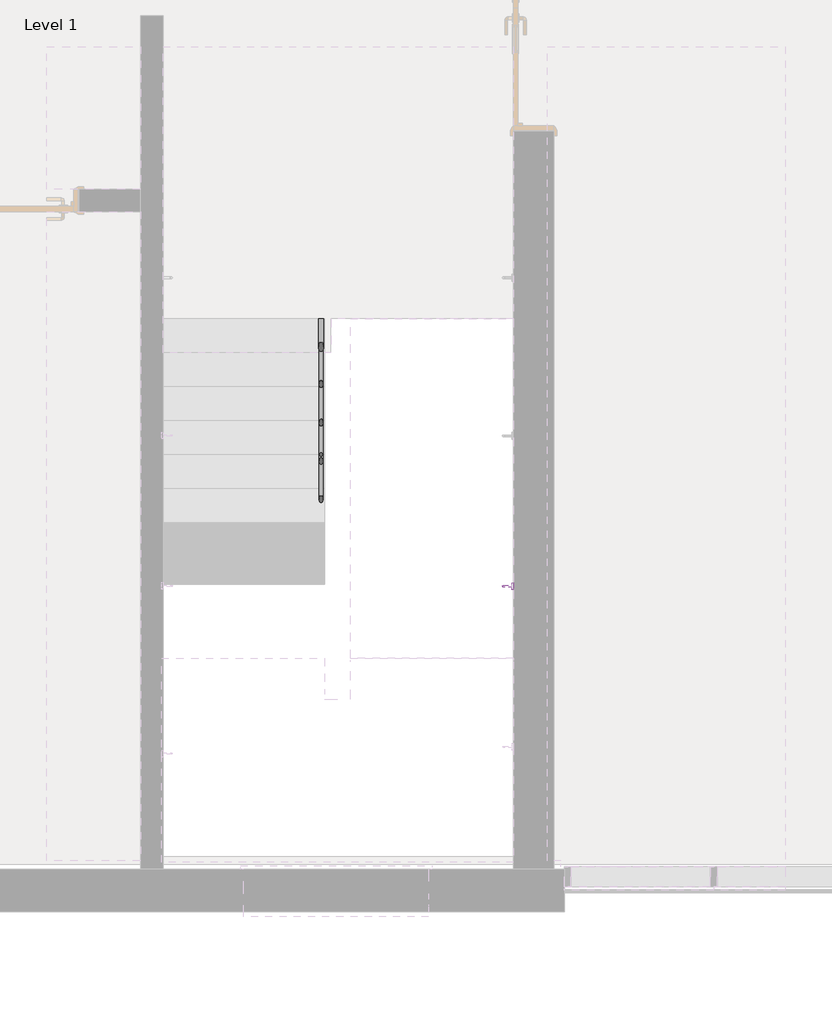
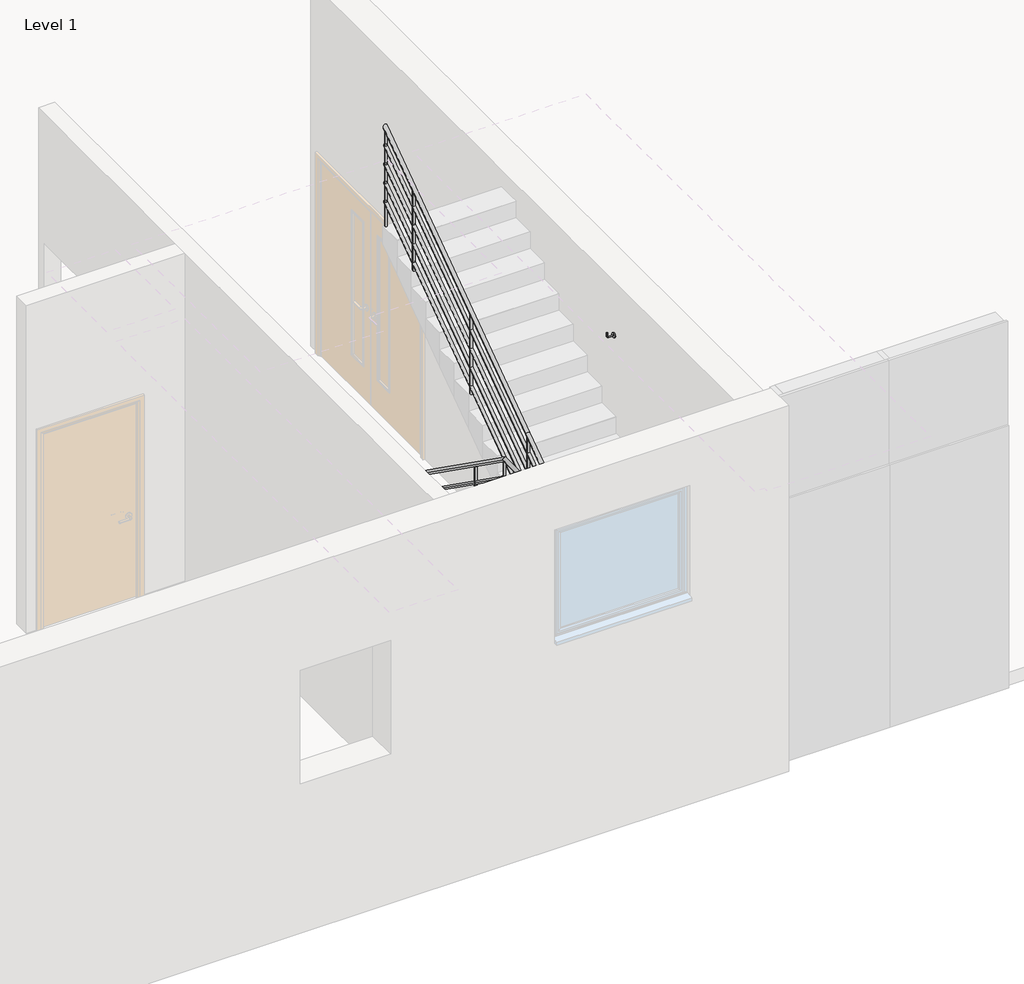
# One storey, part 9 of 12: 1 proxy, 1 railing.
"""IFC4 building model written with IfcOpenShell, lengths in millimetres."""

from ifc_helpers import new_model, si_unit, point, frame, frame_2d, origin, place, context, project, spatial, circle_curve, ellipse_curve, trimmed, segment, composite_curve, outline, extrude, transform, mapped, element, save
from ifc_brep_helpers import plane_surface, cylinder_surface, advanced_brep
from components import support_metal_circular1_support_metal_circular_016e83f0

model = new_model("IFC4")

# Units and contexts
model_context = context("Model", 3, world=origin())
ifc_project = project(units=[si_unit("LENGTHUNIT", "METRE", prefix="MILLI")], contexts=[model_context])

# Site, building, storey
site = spatial("IfcSite", under=ifc_project)
building = spatial("IfcBuilding", under=site)
storey = spatial("IfcBuildingStorey", under=building, Name="Level 1", Elevation=3900.0)

# Proxy
placement = place(None, origin())
support_metal_circular1_support_metal_circular_shape = support_metal_circular1_support_metal_circular_016e83f0(model_context)
element("IfcBuildingElementProxy", 1, Name="Support - Metal - Circular1 : Support - Metal - Circular", ObjectType="Support - Metal - Circular1 : Support - Metal - Circular", at=placement, inside=storey, context=model_context, shape_type="MappedRepresentation", body=[
    mapped(support_metal_circular1_support_metal_circular_shape, transform((7761.8000024, 2330.7111848, 7285.714432), x_axis=(0.0, -1.0, 0.0), y_axis=(1.0, 0.0, 0.0), z_axis=(0.0, 0.0, 1.0))),
])

# Railing
element("IfcRailing", 2, ObjectType="36\"_Pipe", at=placement, inside=storey, context=model_context, shape_type="SolidModel", body=[
    advanced_brep(
    [(6401.8000025, 4300.0, 4952.7548977), (6441.8000025, 4300.0, 4952.7548977), (6401.8000025, 1793.6287019, 6730.0), (6441.8000025, 1793.6287019, 6730.0), (6401.8000025, 1454.6, 6730.0), (6441.8000025, 1494.6, 6730.0), (6682.6000026, 1454.6, 6730.0), (6642.6000026, 1494.6, 6730.0), (6682.6000026, 1556.3712981, 6730.0), (6642.6000026, 1556.3712981, 6730.0), (6682.6000026, 1811.5685755, 6910.9580695), (6642.6000026, 1811.5685755, 6910.9580695), (6682.6000026, 4300.0, 8675.4821704), (6642.6000026, 4300.0, 8675.4821704)],
    [
        (0, 1, ellipse_curve(frame((6421.8000025, 4300.0, 4952.7548977), z_axis=(0.0, 1.0, 0.0), x_axis=(0.0, 0.0, -1.0)), 24.5178296, 20.0)),
        (1, 0, ellipse_curve(frame((6421.8000025, 4300.0, 4952.7548977), z_axis=(0.0, 1.0, 0.0), x_axis=(0.0, 0.0, -1.0)), 24.5178296, 20.0)),
        (0, 2),
        (2, 3, ellipse_curve(frame((6421.8000025, 1793.6287019, 6730.0), z_axis=(0.0, 0.9528202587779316, -0.30353509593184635), x_axis=(0.0, -0.30353509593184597, -0.9528202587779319)), 20.9903178, 20.0)),
        (3, 1),
        (3, 2, ellipse_curve(frame((6421.8000025, 1793.6287019, 6730.0), z_axis=(0.0, 0.9528202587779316, -0.30353509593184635), x_axis=(0.0, -0.30353509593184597, -0.9528202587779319)), 20.9903178, 20.0)),
        (2, 4),
        (4, 5, ellipse_curve(frame((6421.8000025, 1474.6, 6730.0), z_axis=(-0.7071067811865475, 0.7071067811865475, 0.0), x_axis=(0.7071067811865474, 0.7071067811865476, 0.0)), 28.2842712, 20.0)),
        (5, 3),
        (5, 4, ellipse_curve(frame((6421.8000025, 1474.6, 6730.0), z_axis=(-0.7071067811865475, 0.7071067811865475, 0.0), x_axis=(0.7071067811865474, 0.7071067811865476, 0.0)), 28.2842712, 20.0)),
        (4, 6),
        (6, 7, ellipse_curve(frame((6662.6000026, 1474.6, 6730.0), z_axis=(-0.7071067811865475, -0.7071067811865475, 0.0), x_axis=(-0.7071067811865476, 0.7071067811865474, 0.0)), 28.2842712, 20.0)),
        (7, 5),
        (7, 6, ellipse_curve(frame((6662.6000026, 1474.6, 6730.0), z_axis=(-0.7071067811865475, -0.7071067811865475, 0.0), x_axis=(-0.7071067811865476, 0.7071067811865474, 0.0)), 28.2842712, 20.0)),
        (6, 8),
        (8, 9, ellipse_curve(frame((6662.6000026, 1556.3712981, 6730.0), z_axis=(0.0, -0.9528202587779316, -0.3035350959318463), x_axis=(0.0, -0.3035350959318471, 0.9528202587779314)), 20.9903178, 20.0)),
        (9, 7),
        (9, 8, ellipse_curve(frame((6662.6000026, 1556.3712981, 6730.0), z_axis=(0.0, -0.9528202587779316, -0.3035350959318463), x_axis=(0.0, -0.3035350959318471, 0.9528202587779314)), 20.9903178, 20.0)),
        (8, 10),
        (10, 11, circle_curve(frame((6662.6000026, 1811.5685755, 6910.9580695), z_axis=(0.0, -0.8157328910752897, -0.5784287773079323), x_axis=(-1.0, 0.0, 0.0)), 20.0)),
        (11, 9),
        (11, 10, circle_curve(frame((6662.6000026, 1811.5685755, 6910.9580695), z_axis=(0.0, -0.8157328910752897, -0.5784287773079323), x_axis=(-1.0, 0.0, 0.0)), 20.0)),
        (12, 13, ellipse_curve(frame((6662.6000026, 4300.0, 8675.4821704), z_axis=(0.0, 1.0, 0.0), x_axis=(0.0, 0.0, -1.0)), 24.5178296, 20.0)),
        (13, 12, ellipse_curve(frame((6662.6000026, 4300.0, 8675.4821704), z_axis=(0.0, 1.0, 0.0), x_axis=(0.0, 0.0, -1.0)), 24.5178296, 20.0)),
        (10, 12),
        (13, 11),
    ],
    [
        plane_surface(frame((6421.8000025, 4300.0, 4977.2727273), z_axis=(0.0, 1.0, 0.0), x_axis=(0.0, 0.0, -1.0))),
        cylinder_surface(frame((6421.8000025, 4288.4314245, 4960.9580695), z_axis=(0.0, 0.8157328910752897, -0.5784287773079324), x_axis=(1.0, 0.0, 0.0)), 20.0),
        cylinder_surface(frame((6421.8000025, 1800.0, 6730.0), z_axis=(0.0, 1.0, 0.0), x_axis=(1.0, 0.0, 0.0)), 20.0),
        cylinder_surface(frame((6421.8000025, 1474.6, 6730.0), z_axis=(-1.0, 0.0, 0.0), x_axis=(0.0, 1.0, 0.0)), 20.0),
        cylinder_surface(frame((6662.6000026, 1474.6, 6730.0), z_axis=(0.0, -1.0, 0.0), x_axis=(-1.0, 0.0, 0.0)), 20.0),
        cylinder_surface(frame((6662.6000026, 1561.5685755, 6733.6853422), z_axis=(0.0, -0.8157328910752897, -0.5784287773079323), x_axis=(-1.0, 0.0, 0.0)), 20.0),
        plane_surface(frame((6662.6000026, 4300.0, 8700.0), z_axis=(0.0, 1.0, 0.0), x_axis=(0.0, 0.0, 1.0))),
        cylinder_surface(frame((6662.6000026, 1811.5685755, 6910.9580695), z_axis=(0.0, -0.8157328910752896, -0.5784287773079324), x_axis=(-1.0, 0.0, 0.0)), 20.0),
    ],
    [
        (0, [[1, 2]]),
        (1, [[-1, 3, 4, 5]]),
        (1, [[-2, -5, 6, -3]]),
        (2, [[-4, 7, 8, 9]]),
        (2, [[-6, -9, 10, -7]]),
        (3, [[-8, 11, 12, 13]]),
        (3, [[-10, -13, 14, -11]]),
        (4, [[-12, 15, 16, 17]]),
        (4, [[-14, -17, 18, -15]]),
        (5, [[-16, 19, 20, 21]]),
        (5, [[-18, -21, 22, -19]]),
        (6, [[23, 24]]),
        (7, [[-20, 25, -24, 26]]),
        (7, [[-22, -26, -23, -25]]),
    ],
),
    advanced_brep(
    [(6406.8000025, 4300.0, 4758.8843551), (6436.8000025, 4300.0, 4758.8843551), (6406.8000025, 1800.0, 6531.6116278), (6436.8000025, 1800.0, 6531.6116278)],
    [
        (0, 1, ellipse_curve(frame((6421.8000025, 4300.0, 4758.8843551), z_axis=(0.0, 1.0, 0.0), x_axis=(0.0, 0.0, -1.0)), 18.3883722, 15.0)),
        (1, 0, ellipse_curve(frame((6421.8000025, 4300.0, 4758.8843551), z_axis=(0.0, 1.0, 0.0), x_axis=(0.0, 0.0, -1.0)), 18.3883722, 15.0)),
        (2, 3, ellipse_curve(frame((6421.8000025, 1800.0, 6531.6116278), z_axis=(0.0, -1.0, 0.0), x_axis=(0.0, 0.0, -1.0)), 18.3883722, 15.0)),
        (3, 2, ellipse_curve(frame((6421.8000025, 1800.0, 6531.6116278), z_axis=(0.0, -1.0, 0.0), x_axis=(0.0, 0.0, -1.0)), 18.3883722, 15.0)),
        (0, 2),
        (3, 1),
    ],
    [
        plane_surface(frame((6421.8000025, 4300.0, 4777.2727273), z_axis=(0.0, 1.0, 0.0), x_axis=(0.0, 0.0, -1.0))),
        plane_surface(frame((6421.8000025, 1800.0, 6550.0), z_axis=(0.0, -1.0, 0.0), x_axis=(0.0, 0.0, -1.0))),
        cylinder_surface(frame((6421.8000025, 4291.3235683, 4765.0367339), z_axis=(0.0, 0.8157328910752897, -0.5784287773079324), x_axis=(1.0, 0.0, 0.0)), 15.0),
    ],
    [
        (0, [[1, 2]]),
        (1, [[3, 4]]),
        (2, [[-1, 5, -4, 6]]),
        (2, [[-2, -6, -3, -5]]),
    ],
),
    advanced_brep(
    [(6406.8000025, 1800.0, 6535.0), (6436.8000025, 1800.0, 6535.0), (6406.8000025, 1489.6, 6535.0), (6436.8000025, 1489.6, 6535.0)],
    [
        (0, 1, circle_curve(frame((6421.8000025, 1800.0, 6535.0), z_axis=(0.0, 1.0, 0.0), x_axis=(1.0, 0.0, 0.0)), 15.0)),
        (1, 0, circle_curve(frame((6421.8000025, 1800.0, 6535.0), z_axis=(0.0, 1.0, 0.0), x_axis=(1.0, 0.0, 0.0)), 15.0)),
        (2, 3, circle_curve(frame((6421.8000025, 1489.6, 6535.0), z_axis=(0.0, -1.0, 0.0), x_axis=(1.0, 0.0, 0.0)), 15.0)),
        (3, 2, circle_curve(frame((6421.8000025, 1489.6, 6535.0), z_axis=(0.0, -1.0, 0.0), x_axis=(1.0, 0.0, 0.0)), 15.0)),
        (0, 2),
        (3, 1),
    ],
    [
        plane_surface(frame((6421.8000025, 1800.0, 6550.0), z_axis=(0.0, 1.0, 0.0), x_axis=(0.0, 0.0, -1.0))),
        plane_surface(frame((6421.8000025, 1489.6, 6550.0), z_axis=(0.0, -1.0, 0.0), x_axis=(0.0, 0.0, -1.0))),
        cylinder_surface(frame((6421.8000025, 1800.0, 6535.0), z_axis=(0.0, 1.0, 0.0), x_axis=(1.0, 0.0, 0.0)), 15.0),
    ],
    [
        (0, [[1, 2]]),
        (1, [[3, 4]]),
        (2, [[-1, 5, -4, 6]]),
        (2, [[-2, -6, -3, -5]]),
    ],
),
    advanced_brep(
    [(6406.8000025, 1459.6, 6535.0), (6406.8000025, 1489.6, 6535.0), (6647.6000026, 1459.6, 6535.0), (6647.6000026, 1489.6, 6535.0)],
    [
        (0, 1, circle_curve(frame((6406.8000025, 1474.6, 6535.0), z_axis=(-1.0, 0.0, 0.0), x_axis=(0.0, 1.0, 0.0)), 15.0)),
        (1, 0, circle_curve(frame((6406.8000025, 1474.6, 6535.0), z_axis=(-1.0, 0.0, 0.0), x_axis=(0.0, 1.0, 0.0)), 15.0)),
        (2, 3, circle_curve(frame((6647.6000026, 1474.6, 6535.0), z_axis=(1.0, 0.0, 0.0), x_axis=(0.0, 1.0, 0.0)), 15.0)),
        (3, 2, circle_curve(frame((6647.6000026, 1474.6, 6535.0), z_axis=(1.0, 0.0, 0.0), x_axis=(0.0, 1.0, 0.0)), 15.0)),
        (0, 2),
        (3, 1),
    ],
    [
        plane_surface(frame((6406.8000025, 1474.6, 6550.0), z_axis=(-1.0, 0.0, 0.0), x_axis=(0.0, 1.0, 0.0))),
        plane_surface(frame((6647.6000026, 1474.6, 6550.0), z_axis=(1.0, 0.0, 0.0), x_axis=(0.0, 1.0, 0.0))),
        cylinder_surface(frame((6406.8000025, 1474.6, 6535.0), z_axis=(-1.0, 0.0, 0.0), x_axis=(0.0, 1.0, 0.0)), 15.0),
    ],
    [
        (0, [[1, 2]]),
        (1, [[3, 4]]),
        (2, [[-1, 5, -4, 6]]),
        (2, [[-2, -6, -3, -5]]),
    ],
),
    advanced_brep(
    [(6677.6000026, 1459.6, 6535.0), (6647.6000026, 1459.6, 6535.0), (6677.6000026, 1554.7784736, 6535.0), (6647.6000026, 1554.7784736, 6535.0), (6677.6000026, 1800.0, 6708.8843551), (6647.6000026, 1800.0, 6708.8843551)],
    [
        (0, 1, circle_curve(frame((6662.6000026, 1459.6, 6535.0), z_axis=(0.0, -1.0, 0.0), x_axis=(-1.0, 0.0, 0.0)), 15.0)),
        (1, 0, circle_curve(frame((6662.6000026, 1459.6, 6535.0), z_axis=(0.0, -1.0, 0.0), x_axis=(-1.0, 0.0, 0.0)), 15.0)),
        (0, 2),
        (2, 3, ellipse_curve(frame((6662.6000026, 1554.7784736, 6535.0), z_axis=(0.0, -0.9528202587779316, -0.3035350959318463), x_axis=(0.0, -0.3035350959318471, 0.9528202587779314)), 15.7427383, 15.0)),
        (3, 1),
        (3, 2, ellipse_curve(frame((6662.6000026, 1554.7784736, 6535.0), z_axis=(0.0, -0.9528202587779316, -0.3035350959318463), x_axis=(0.0, -0.3035350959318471, 0.9528202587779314)), 15.7427383, 15.0)),
        (4, 5, ellipse_curve(frame((6662.6000026, 1800.0, 6708.8843551), z_axis=(0.0, 1.0, 0.0), x_axis=(0.0, 0.0, -1.0)), 18.3883722, 15.0)),
        (5, 4, ellipse_curve(frame((6662.6000026, 1800.0, 6708.8843551), z_axis=(0.0, 1.0, 0.0), x_axis=(0.0, 0.0, -1.0)), 18.3883722, 15.0)),
        (2, 4),
        (5, 3),
    ],
    [
        plane_surface(frame((6662.6000026, 1459.6, 6550.0), z_axis=(0.0, -1.0, 0.0), x_axis=(0.0, 0.0, 1.0))),
        cylinder_surface(frame((6662.6000026, 1459.6, 6535.0), z_axis=(0.0, -1.0, 0.0), x_axis=(-1.0, 0.0, 0.0)), 15.0),
        plane_surface(frame((6662.6000026, 1800.0, 6727.2727273), z_axis=(0.0, 1.0, 0.0), x_axis=(0.0, 0.0, 1.0))),
        cylinder_surface(frame((6662.6000026, 1558.6764317, 6537.7640066), z_axis=(0.0, -0.8157328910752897, -0.5784287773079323), x_axis=(-1.0, 0.0, 0.0)), 15.0),
    ],
    [
        (0, [[1, 2]]),
        (1, [[-1, 3, 4, 5]]),
        (1, [[-2, -5, 6, -3]]),
        (2, [[7, 8]]),
        (3, [[-4, 9, -8, 10]]),
        (3, [[-6, -10, -7, -9]]),
    ],
),
    advanced_brep(
    [(6677.6000026, 1800.0, 6708.8843551), (6647.6000026, 1800.0, 6708.8843551), (6677.6000026, 4300.0, 8481.6116278), (6647.6000026, 4300.0, 8481.6116278)],
    [
        (0, 1, ellipse_curve(frame((6662.6000026, 1800.0, 6708.8843551), z_axis=(0.0, -1.0, 0.0), x_axis=(0.0, 0.0, -1.0)), 18.3883722, 15.0)),
        (1, 0, ellipse_curve(frame((6662.6000026, 1800.0, 6708.8843551), z_axis=(0.0, -1.0, 0.0), x_axis=(0.0, 0.0, -1.0)), 18.3883722, 15.0)),
        (2, 3, ellipse_curve(frame((6662.6000026, 4300.0, 8481.6116278), z_axis=(0.0, 1.0, 0.0), x_axis=(0.0, 0.0, -1.0)), 18.3883722, 15.0)),
        (3, 2, ellipse_curve(frame((6662.6000026, 4300.0, 8481.6116278), z_axis=(0.0, 1.0, 0.0), x_axis=(0.0, 0.0, -1.0)), 18.3883722, 15.0)),
        (0, 2),
        (3, 1),
    ],
    [
        plane_surface(frame((6662.6000026, 1800.0, 6727.2727273), z_axis=(0.0, -1.0, 0.0), x_axis=(0.0, 0.0, 1.0))),
        plane_surface(frame((6662.6000026, 4300.0, 8500.0), z_axis=(0.0, 1.0, 0.0), x_axis=(0.0, 0.0, 1.0))),
        cylinder_surface(frame((6662.6000026, 1808.6764317, 6715.0367339), z_axis=(0.0, -0.8157328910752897, -0.5784287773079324), x_axis=(-1.0, 0.0, 0.0)), 15.0),
    ],
    [
        (0, [[1, 2]]),
        (1, [[3, 4]]),
        (2, [[-1, 5, -4, 6]]),
        (2, [[-2, -6, -3, -5]]),
    ],
),
    advanced_brep(
    [(6406.8000025, 4300.0, 4558.8843551), (6436.8000025, 4300.0, 4558.8843551), (6406.8000025, 1800.0, 6331.6116278), (6436.8000025, 1800.0, 6331.6116278)],
    [
        (0, 1, ellipse_curve(frame((6421.8000025, 4300.0, 4558.8843551), z_axis=(0.0, 1.0, 0.0), x_axis=(0.0, 0.0, -1.0)), 18.3883722, 15.0)),
        (1, 0, ellipse_curve(frame((6421.8000025, 4300.0, 4558.8843551), z_axis=(0.0, 1.0, 0.0), x_axis=(0.0, 0.0, -1.0)), 18.3883722, 15.0)),
        (2, 3, ellipse_curve(frame((6421.8000025, 1800.0, 6331.6116278), z_axis=(0.0, -1.0, 0.0), x_axis=(0.0, 0.0, -1.0)), 18.3883722, 15.0)),
        (3, 2, ellipse_curve(frame((6421.8000025, 1800.0, 6331.6116278), z_axis=(0.0, -1.0, 0.0), x_axis=(0.0, 0.0, -1.0)), 18.3883722, 15.0)),
        (0, 2),
        (3, 1),
    ],
    [
        plane_surface(frame((6421.8000025, 4300.0, 4577.2727273), z_axis=(0.0, 1.0, 0.0), x_axis=(0.0, 0.0, -1.0))),
        plane_surface(frame((6421.8000025, 1800.0, 6350.0), z_axis=(0.0, -1.0, 0.0), x_axis=(0.0, 0.0, -1.0))),
        cylinder_surface(frame((6421.8000025, 4291.3235683, 4565.0367339), z_axis=(0.0, 0.8157328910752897, -0.5784287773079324), x_axis=(1.0, 0.0, 0.0)), 15.0),
    ],
    [
        (0, [[1, 2]]),
        (1, [[3, 4]]),
        (2, [[-1, 5, -4, 6]]),
        (2, [[-2, -6, -3, -5]]),
    ],
),
    advanced_brep(
    [(6406.8000025, 1800.0, 6335.0), (6436.8000025, 1800.0, 6335.0), (6406.8000025, 1489.6, 6335.0), (6436.8000025, 1489.6, 6335.0)],
    [
        (0, 1, circle_curve(frame((6421.8000025, 1800.0, 6335.0), z_axis=(0.0, 1.0, 0.0), x_axis=(1.0, 0.0, 0.0)), 15.0)),
        (1, 0, circle_curve(frame((6421.8000025, 1800.0, 6335.0), z_axis=(0.0, 1.0, 0.0), x_axis=(1.0, 0.0, 0.0)), 15.0)),
        (2, 3, circle_curve(frame((6421.8000025, 1489.6, 6335.0), z_axis=(0.0, -1.0, 0.0), x_axis=(1.0, 0.0, 0.0)), 15.0)),
        (3, 2, circle_curve(frame((6421.8000025, 1489.6, 6335.0), z_axis=(0.0, -1.0, 0.0), x_axis=(1.0, 0.0, 0.0)), 15.0)),
        (0, 2),
        (3, 1),
    ],
    [
        plane_surface(frame((6421.8000025, 1800.0, 6350.0), z_axis=(0.0, 1.0, 0.0), x_axis=(0.0, 0.0, -1.0))),
        plane_surface(frame((6421.8000025, 1489.6, 6350.0), z_axis=(0.0, -1.0, 0.0), x_axis=(0.0, 0.0, -1.0))),
        cylinder_surface(frame((6421.8000025, 1800.0, 6335.0), z_axis=(0.0, 1.0, 0.0), x_axis=(1.0, 0.0, 0.0)), 15.0),
    ],
    [
        (0, [[1, 2]]),
        (1, [[3, 4]]),
        (2, [[-1, 5, -4, 6]]),
        (2, [[-2, -6, -3, -5]]),
    ],
),
    advanced_brep(
    [(6406.8000025, 1459.6, 6335.0), (6406.8000025, 1489.6, 6335.0), (6647.6000026, 1459.6, 6335.0), (6647.6000026, 1489.6, 6335.0)],
    [
        (0, 1, circle_curve(frame((6406.8000025, 1474.6, 6335.0), z_axis=(-1.0, 0.0, 0.0), x_axis=(0.0, 1.0, 0.0)), 15.0)),
        (1, 0, circle_curve(frame((6406.8000025, 1474.6, 6335.0), z_axis=(-1.0, 0.0, 0.0), x_axis=(0.0, 1.0, 0.0)), 15.0)),
        (2, 3, circle_curve(frame((6647.6000026, 1474.6, 6335.0), z_axis=(1.0, 0.0, 0.0), x_axis=(0.0, 1.0, 0.0)), 15.0)),
        (3, 2, circle_curve(frame((6647.6000026, 1474.6, 6335.0), z_axis=(1.0, 0.0, 0.0), x_axis=(0.0, 1.0, 0.0)), 15.0)),
        (0, 2),
        (3, 1),
    ],
    [
        plane_surface(frame((6406.8000025, 1474.6, 6350.0), z_axis=(-1.0, 0.0, 0.0), x_axis=(0.0, 1.0, 0.0))),
        plane_surface(frame((6647.6000026, 1474.6, 6350.0), z_axis=(1.0, 0.0, 0.0), x_axis=(0.0, 1.0, 0.0))),
        cylinder_surface(frame((6406.8000025, 1474.6, 6335.0), z_axis=(-1.0, 0.0, 0.0), x_axis=(0.0, 1.0, 0.0)), 15.0),
    ],
    [
        (0, [[1, 2]]),
        (1, [[3, 4]]),
        (2, [[-1, 5, -4, 6]]),
        (2, [[-2, -6, -3, -5]]),
    ],
),
    advanced_brep(
    [(6677.6000026, 1459.6, 6335.0), (6647.6000026, 1459.6, 6335.0), (6677.6000026, 1554.7784736, 6335.0), (6647.6000026, 1554.7784736, 6335.0), (6677.6000026, 1800.0, 6508.8843551), (6647.6000026, 1800.0, 6508.8843551)],
    [
        (0, 1, circle_curve(frame((6662.6000026, 1459.6, 6335.0), z_axis=(0.0, -1.0, 0.0), x_axis=(-1.0, 0.0, 0.0)), 15.0)),
        (1, 0, circle_curve(frame((6662.6000026, 1459.6, 6335.0), z_axis=(0.0, -1.0, 0.0), x_axis=(-1.0, 0.0, 0.0)), 15.0)),
        (0, 2),
        (2, 3, ellipse_curve(frame((6662.6000026, 1554.7784736, 6335.0), z_axis=(0.0, -0.9528202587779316, -0.3035350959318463), x_axis=(0.0, -0.3035350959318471, 0.9528202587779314)), 15.7427383, 15.0)),
        (3, 1),
        (3, 2, ellipse_curve(frame((6662.6000026, 1554.7784736, 6335.0), z_axis=(0.0, -0.9528202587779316, -0.3035350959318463), x_axis=(0.0, -0.3035350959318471, 0.9528202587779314)), 15.7427383, 15.0)),
        (4, 5, ellipse_curve(frame((6662.6000026, 1800.0, 6508.8843551), z_axis=(0.0, 1.0, 0.0), x_axis=(0.0, 0.0, -1.0)), 18.3883722, 15.0)),
        (5, 4, ellipse_curve(frame((6662.6000026, 1800.0, 6508.8843551), z_axis=(0.0, 1.0, 0.0), x_axis=(0.0, 0.0, -1.0)), 18.3883722, 15.0)),
        (2, 4),
        (5, 3),
    ],
    [
        plane_surface(frame((6662.6000026, 1459.6, 6350.0), z_axis=(0.0, -1.0, 0.0), x_axis=(0.0, 0.0, 1.0))),
        cylinder_surface(frame((6662.6000026, 1459.6, 6335.0), z_axis=(0.0, -1.0, 0.0), x_axis=(-1.0, 0.0, 0.0)), 15.0),
        plane_surface(frame((6662.6000026, 1800.0, 6527.2727273), z_axis=(0.0, 1.0, 0.0), x_axis=(0.0, 0.0, 1.0))),
        cylinder_surface(frame((6662.6000026, 1558.6764317, 6337.7640066), z_axis=(0.0, -0.8157328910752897, -0.5784287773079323), x_axis=(-1.0, 0.0, 0.0)), 15.0),
    ],
    [
        (0, [[1, 2]]),
        (1, [[-1, 3, 4, 5]]),
        (1, [[-2, -5, 6, -3]]),
        (2, [[7, 8]]),
        (3, [[-4, 9, -8, 10]]),
        (3, [[-6, -10, -7, -9]]),
    ],
),
    advanced_brep(
    [(6677.6000026, 1800.0, 6508.8843551), (6647.6000026, 1800.0, 6508.8843551), (6677.6000026, 4300.0, 8281.6116278), (6647.6000026, 4300.0, 8281.6116278)],
    [
        (0, 1, ellipse_curve(frame((6662.6000026, 1800.0, 6508.8843551), z_axis=(0.0, -1.0, 0.0), x_axis=(0.0, 0.0, -1.0)), 18.3883722, 15.0)),
        (1, 0, ellipse_curve(frame((6662.6000026, 1800.0, 6508.8843551), z_axis=(0.0, -1.0, 0.0), x_axis=(0.0, 0.0, -1.0)), 18.3883722, 15.0)),
        (2, 3, ellipse_curve(frame((6662.6000026, 4300.0, 8281.6116278), z_axis=(0.0, 1.0, 0.0), x_axis=(0.0, 0.0, -1.0)), 18.3883722, 15.0)),
        (3, 2, ellipse_curve(frame((6662.6000026, 4300.0, 8281.6116278), z_axis=(0.0, 1.0, 0.0), x_axis=(0.0, 0.0, -1.0)), 18.3883722, 15.0)),
        (0, 2),
        (3, 1),
    ],
    [
        plane_surface(frame((6662.6000026, 1800.0, 6527.2727273), z_axis=(0.0, -1.0, 0.0), x_axis=(0.0, 0.0, 1.0))),
        plane_surface(frame((6662.6000026, 4300.0, 8300.0), z_axis=(0.0, 1.0, 0.0), x_axis=(0.0, 0.0, 1.0))),
        cylinder_surface(frame((6662.6000026, 1808.6764317, 6515.0367339), z_axis=(0.0, -0.8157328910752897, -0.5784287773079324), x_axis=(-1.0, 0.0, 0.0)), 15.0),
    ],
    [
        (0, [[1, 2]]),
        (1, [[3, 4]]),
        (2, [[-1, 5, -4, 6]]),
        (2, [[-2, -6, -3, -5]]),
    ],
),
    advanced_brep(
    [(6406.8000025, 4300.0, 4358.8843551), (6436.8000025, 4300.0, 4358.8843551), (6406.8000025, 1800.0, 6131.6116278), (6436.8000025, 1800.0, 6131.6116278)],
    [
        (0, 1, ellipse_curve(frame((6421.8000025, 4300.0, 4358.8843551), z_axis=(0.0, 1.0, 0.0), x_axis=(0.0, 0.0, -1.0)), 18.3883722, 15.0)),
        (1, 0, ellipse_curve(frame((6421.8000025, 4300.0, 4358.8843551), z_axis=(0.0, 1.0, 0.0), x_axis=(0.0, 0.0, -1.0)), 18.3883722, 15.0)),
        (2, 3, ellipse_curve(frame((6421.8000025, 1800.0, 6131.6116278), z_axis=(0.0, -1.0, 0.0), x_axis=(0.0, 0.0, -1.0)), 18.3883722, 15.0)),
        (3, 2, ellipse_curve(frame((6421.8000025, 1800.0, 6131.6116278), z_axis=(0.0, -1.0, 0.0), x_axis=(0.0, 0.0, -1.0)), 18.3883722, 15.0)),
        (0, 2),
        (3, 1),
    ],
    [
        plane_surface(frame((6421.8000025, 4300.0, 4377.2727273), z_axis=(0.0, 1.0, 0.0), x_axis=(0.0, 0.0, -1.0))),
        plane_surface(frame((6421.8000025, 1800.0, 6150.0), z_axis=(0.0, -1.0, 0.0), x_axis=(0.0, 0.0, -1.0))),
        cylinder_surface(frame((6421.8000025, 4291.3235683, 4365.0367339), z_axis=(0.0, 0.8157328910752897, -0.5784287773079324), x_axis=(1.0, 0.0, 0.0)), 15.0),
    ],
    [
        (0, [[1, 2]]),
        (1, [[3, 4]]),
        (2, [[-1, 5, -4, 6]]),
        (2, [[-2, -6, -3, -5]]),
    ],
),
    advanced_brep(
    [(6406.8000025, 1800.0, 6135.0), (6436.8000025, 1800.0, 6135.0), (6406.8000025, 1489.6, 6135.0), (6436.8000025, 1489.6, 6135.0)],
    [
        (0, 1, circle_curve(frame((6421.8000025, 1800.0, 6135.0), z_axis=(0.0, 1.0, 0.0), x_axis=(1.0, 0.0, 0.0)), 15.0)),
        (1, 0, circle_curve(frame((6421.8000025, 1800.0, 6135.0), z_axis=(0.0, 1.0, 0.0), x_axis=(1.0, 0.0, 0.0)), 15.0)),
        (2, 3, circle_curve(frame((6421.8000025, 1489.6, 6135.0), z_axis=(0.0, -1.0, 0.0), x_axis=(1.0, 0.0, 0.0)), 15.0)),
        (3, 2, circle_curve(frame((6421.8000025, 1489.6, 6135.0), z_axis=(0.0, -1.0, 0.0), x_axis=(1.0, 0.0, 0.0)), 15.0)),
        (0, 2),
        (3, 1),
    ],
    [
        plane_surface(frame((6421.8000025, 1800.0, 6150.0), z_axis=(0.0, 1.0, 0.0), x_axis=(0.0, 0.0, -1.0))),
        plane_surface(frame((6421.8000025, 1489.6, 6150.0), z_axis=(0.0, -1.0, 0.0), x_axis=(0.0, 0.0, -1.0))),
        cylinder_surface(frame((6421.8000025, 1800.0, 6135.0), z_axis=(0.0, 1.0, 0.0), x_axis=(1.0, 0.0, 0.0)), 15.0),
    ],
    [
        (0, [[1, 2]]),
        (1, [[3, 4]]),
        (2, [[-1, 5, -4, 6]]),
        (2, [[-2, -6, -3, -5]]),
    ],
),
    advanced_brep(
    [(6406.8000025, 1459.6, 6135.0), (6406.8000025, 1489.6, 6135.0), (6647.6000026, 1459.6, 6135.0), (6647.6000026, 1489.6, 6135.0)],
    [
        (0, 1, circle_curve(frame((6406.8000025, 1474.6, 6135.0), z_axis=(-1.0, 0.0, 0.0), x_axis=(0.0, 1.0, 0.0)), 15.0)),
        (1, 0, circle_curve(frame((6406.8000025, 1474.6, 6135.0), z_axis=(-1.0, 0.0, 0.0), x_axis=(0.0, 1.0, 0.0)), 15.0)),
        (2, 3, circle_curve(frame((6647.6000026, 1474.6, 6135.0), z_axis=(1.0, 0.0, 0.0), x_axis=(0.0, 1.0, 0.0)), 15.0)),
        (3, 2, circle_curve(frame((6647.6000026, 1474.6, 6135.0), z_axis=(1.0, 0.0, 0.0), x_axis=(0.0, 1.0, 0.0)), 15.0)),
        (0, 2),
        (3, 1),
    ],
    [
        plane_surface(frame((6406.8000025, 1474.6, 6150.0), z_axis=(-1.0, 0.0, 0.0), x_axis=(0.0, 1.0, 0.0))),
        plane_surface(frame((6647.6000026, 1474.6, 6150.0), z_axis=(1.0, 0.0, 0.0), x_axis=(0.0, 1.0, 0.0))),
        cylinder_surface(frame((6406.8000025, 1474.6, 6135.0), z_axis=(-1.0, 0.0, 0.0), x_axis=(0.0, 1.0, 0.0)), 15.0),
    ],
    [
        (0, [[1, 2]]),
        (1, [[3, 4]]),
        (2, [[-1, 5, -4, 6]]),
        (2, [[-2, -6, -3, -5]]),
    ],
),
    advanced_brep(
    [(6677.6000026, 1459.6, 6135.0), (6647.6000026, 1459.6, 6135.0), (6677.6000026, 1554.7784736, 6135.0), (6647.6000026, 1554.7784736, 6135.0), (6677.6000026, 1800.0, 6308.8843551), (6647.6000026, 1800.0, 6308.8843551)],
    [
        (0, 1, circle_curve(frame((6662.6000026, 1459.6, 6135.0), z_axis=(0.0, -1.0, 0.0), x_axis=(-1.0, 0.0, 0.0)), 15.0)),
        (1, 0, circle_curve(frame((6662.6000026, 1459.6, 6135.0), z_axis=(0.0, -1.0, 0.0), x_axis=(-1.0, 0.0, 0.0)), 15.0)),
        (0, 2),
        (2, 3, ellipse_curve(frame((6662.6000026, 1554.7784736, 6135.0), z_axis=(0.0, -0.9528202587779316, -0.3035350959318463), x_axis=(0.0, -0.3035350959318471, 0.9528202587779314)), 15.7427383, 15.0)),
        (3, 1),
        (3, 2, ellipse_curve(frame((6662.6000026, 1554.7784736, 6135.0), z_axis=(0.0, -0.9528202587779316, -0.3035350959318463), x_axis=(0.0, -0.3035350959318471, 0.9528202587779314)), 15.7427383, 15.0)),
        (4, 5, ellipse_curve(frame((6662.6000026, 1800.0, 6308.8843551), z_axis=(0.0, 1.0, 0.0), x_axis=(0.0, 0.0, -1.0)), 18.3883722, 15.0)),
        (5, 4, ellipse_curve(frame((6662.6000026, 1800.0, 6308.8843551), z_axis=(0.0, 1.0, 0.0), x_axis=(0.0, 0.0, -1.0)), 18.3883722, 15.0)),
        (2, 4),
        (5, 3),
    ],
    [
        plane_surface(frame((6662.6000026, 1459.6, 6150.0), z_axis=(0.0, -1.0, 0.0), x_axis=(0.0, 0.0, 1.0))),
        cylinder_surface(frame((6662.6000026, 1459.6, 6135.0), z_axis=(0.0, -1.0, 0.0), x_axis=(-1.0, 0.0, 0.0)), 15.0),
        plane_surface(frame((6662.6000026, 1800.0, 6327.2727273), z_axis=(0.0, 1.0, 0.0), x_axis=(0.0, 0.0, 1.0))),
        cylinder_surface(frame((6662.6000026, 1558.6764317, 6137.7640066), z_axis=(0.0, -0.8157328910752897, -0.5784287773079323), x_axis=(-1.0, 0.0, 0.0)), 15.0),
    ],
    [
        (0, [[1, 2]]),
        (1, [[-1, 3, 4, 5]]),
        (1, [[-2, -5, 6, -3]]),
        (2, [[7, 8]]),
        (3, [[-4, 9, -8, 10]]),
        (3, [[-6, -10, -7, -9]]),
    ],
),
    advanced_brep(
    [(6677.6000026, 1800.0, 6308.8843551), (6647.6000026, 1800.0, 6308.8843551), (6677.6000026, 4300.0, 8081.6116278), (6647.6000026, 4300.0, 8081.6116278)],
    [
        (0, 1, ellipse_curve(frame((6662.6000026, 1800.0, 6308.8843551), z_axis=(0.0, -1.0, 0.0), x_axis=(0.0, 0.0, -1.0)), 18.3883722, 15.0)),
        (1, 0, ellipse_curve(frame((6662.6000026, 1800.0, 6308.8843551), z_axis=(0.0, -1.0, 0.0), x_axis=(0.0, 0.0, -1.0)), 18.3883722, 15.0)),
        (2, 3, ellipse_curve(frame((6662.6000026, 4300.0, 8081.6116278), z_axis=(0.0, 1.0, 0.0), x_axis=(0.0, 0.0, -1.0)), 18.3883722, 15.0)),
        (3, 2, ellipse_curve(frame((6662.6000026, 4300.0, 8081.6116278), z_axis=(0.0, 1.0, 0.0), x_axis=(0.0, 0.0, -1.0)), 18.3883722, 15.0)),
        (0, 2),
        (3, 1),
    ],
    [
        plane_surface(frame((6662.6000026, 1800.0, 6327.2727273), z_axis=(0.0, -1.0, 0.0), x_axis=(0.0, 0.0, 1.0))),
        plane_surface(frame((6662.6000026, 4300.0, 8100.0), z_axis=(0.0, 1.0, 0.0), x_axis=(0.0, 0.0, 1.0))),
        cylinder_surface(frame((6662.6000026, 1808.6764317, 6315.0367339), z_axis=(0.0, -0.8157328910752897, -0.5784287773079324), x_axis=(-1.0, 0.0, 0.0)), 15.0),
    ],
    [
        (0, [[1, 2]]),
        (1, [[3, 4]]),
        (2, [[-1, 5, -4, 6]]),
        (2, [[-2, -6, -3, -5]]),
    ],
),
    advanced_brep(
    [(6406.8000025, 4300.0, 4158.8843551), (6436.8000025, 4300.0, 4158.8843551), (6406.8000025, 1800.0, 5931.6116278), (6436.8000025, 1800.0, 5931.6116278)],
    [
        (0, 1, ellipse_curve(frame((6421.8000025, 4300.0, 4158.8843551), z_axis=(0.0, 1.0, 0.0), x_axis=(0.0, 0.0, -1.0)), 18.3883722, 15.0)),
        (1, 0, ellipse_curve(frame((6421.8000025, 4300.0, 4158.8843551), z_axis=(0.0, 1.0, 0.0), x_axis=(0.0, 0.0, -1.0)), 18.3883722, 15.0)),
        (2, 3, ellipse_curve(frame((6421.8000025, 1800.0, 5931.6116278), z_axis=(0.0, -1.0, 0.0), x_axis=(0.0, 0.0, -1.0)), 18.3883722, 15.0)),
        (3, 2, ellipse_curve(frame((6421.8000025, 1800.0, 5931.6116278), z_axis=(0.0, -1.0, 0.0), x_axis=(0.0, 0.0, -1.0)), 18.3883722, 15.0)),
        (0, 2),
        (3, 1),
    ],
    [
        plane_surface(frame((6421.8000025, 4300.0, 4177.2727273), z_axis=(0.0, 1.0, 0.0), x_axis=(0.0, 0.0, -1.0))),
        plane_surface(frame((6421.8000025, 1800.0, 5950.0), z_axis=(0.0, -1.0, 0.0), x_axis=(0.0, 0.0, -1.0))),
        cylinder_surface(frame((6421.8000025, 4291.3235683, 4165.0367339), z_axis=(0.0, 0.8157328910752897, -0.5784287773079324), x_axis=(1.0, 0.0, 0.0)), 15.0),
    ],
    [
        (0, [[1, 2]]),
        (1, [[3, 4]]),
        (2, [[-1, 5, -4, 6]]),
        (2, [[-2, -6, -3, -5]]),
    ],
),
    advanced_brep(
    [(6406.8000025, 1800.0, 5935.0), (6436.8000025, 1800.0, 5935.0), (6406.8000025, 1489.6, 5935.0), (6436.8000025, 1489.6, 5935.0)],
    [
        (0, 1, circle_curve(frame((6421.8000025, 1800.0, 5935.0), z_axis=(0.0, 1.0, 0.0), x_axis=(1.0, 0.0, 0.0)), 15.0)),
        (1, 0, circle_curve(frame((6421.8000025, 1800.0, 5935.0), z_axis=(0.0, 1.0, 0.0), x_axis=(1.0, 0.0, 0.0)), 15.0)),
        (2, 3, circle_curve(frame((6421.8000025, 1489.6, 5935.0), z_axis=(0.0, -1.0, 0.0), x_axis=(1.0, 0.0, 0.0)), 15.0)),
        (3, 2, circle_curve(frame((6421.8000025, 1489.6, 5935.0), z_axis=(0.0, -1.0, 0.0), x_axis=(1.0, 0.0, 0.0)), 15.0)),
        (0, 2),
        (3, 1),
    ],
    [
        plane_surface(frame((6421.8000025, 1800.0, 5950.0), z_axis=(0.0, 1.0, 0.0), x_axis=(0.0, 0.0, -1.0))),
        plane_surface(frame((6421.8000025, 1489.6, 5950.0), z_axis=(0.0, -1.0, 0.0), x_axis=(0.0, 0.0, -1.0))),
        cylinder_surface(frame((6421.8000025, 1800.0, 5935.0), z_axis=(0.0, 1.0, 0.0), x_axis=(1.0, 0.0, 0.0)), 15.0),
    ],
    [
        (0, [[1, 2]]),
        (1, [[3, 4]]),
        (2, [[-1, 5, -4, 6]]),
        (2, [[-2, -6, -3, -5]]),
    ],
),
    advanced_brep(
    [(6406.8000025, 1459.6, 5935.0), (6406.8000025, 1489.6, 5935.0), (6647.6000026, 1459.6, 5935.0), (6647.6000026, 1489.6, 5935.0)],
    [
        (0, 1, circle_curve(frame((6406.8000025, 1474.6, 5935.0), z_axis=(-1.0, 0.0, 0.0), x_axis=(0.0, 1.0, 0.0)), 15.0)),
        (1, 0, circle_curve(frame((6406.8000025, 1474.6, 5935.0), z_axis=(-1.0, 0.0, 0.0), x_axis=(0.0, 1.0, 0.0)), 15.0)),
        (2, 3, circle_curve(frame((6647.6000026, 1474.6, 5935.0), z_axis=(1.0, 0.0, 0.0), x_axis=(0.0, 1.0, 0.0)), 15.0)),
        (3, 2, circle_curve(frame((6647.6000026, 1474.6, 5935.0), z_axis=(1.0, 0.0, 0.0), x_axis=(0.0, 1.0, 0.0)), 15.0)),
        (0, 2),
        (3, 1),
    ],
    [
        plane_surface(frame((6406.8000025, 1474.6, 5950.0), z_axis=(-1.0, 0.0, 0.0), x_axis=(0.0, 1.0, 0.0))),
        plane_surface(frame((6647.6000026, 1474.6, 5950.0), z_axis=(1.0, 0.0, 0.0), x_axis=(0.0, 1.0, 0.0))),
        cylinder_surface(frame((6406.8000025, 1474.6, 5935.0), z_axis=(-1.0, 0.0, 0.0), x_axis=(0.0, 1.0, 0.0)), 15.0),
    ],
    [
        (0, [[1, 2]]),
        (1, [[3, 4]]),
        (2, [[-1, 5, -4, 6]]),
        (2, [[-2, -6, -3, -5]]),
    ],
),
    advanced_brep(
    [(6677.6000026, 1459.6, 5935.0), (6647.6000026, 1459.6, 5935.0), (6677.6000026, 1554.7784736, 5935.0), (6647.6000026, 1554.7784736, 5935.0), (6677.6000026, 1800.0, 6108.8843551), (6647.6000026, 1800.0, 6108.8843551)],
    [
        (0, 1, circle_curve(frame((6662.6000026, 1459.6, 5935.0), z_axis=(0.0, -1.0, 0.0), x_axis=(-1.0, 0.0, 0.0)), 15.0)),
        (1, 0, circle_curve(frame((6662.6000026, 1459.6, 5935.0), z_axis=(0.0, -1.0, 0.0), x_axis=(-1.0, 0.0, 0.0)), 15.0)),
        (0, 2),
        (2, 3, ellipse_curve(frame((6662.6000026, 1554.7784736, 5935.0), z_axis=(0.0, -0.9528202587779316, -0.3035350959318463), x_axis=(0.0, -0.3035350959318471, 0.9528202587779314)), 15.7427383, 15.0)),
        (3, 1),
        (3, 2, ellipse_curve(frame((6662.6000026, 1554.7784736, 5935.0), z_axis=(0.0, -0.9528202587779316, -0.3035350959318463), x_axis=(0.0, -0.3035350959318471, 0.9528202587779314)), 15.7427383, 15.0)),
        (4, 5, ellipse_curve(frame((6662.6000026, 1800.0, 6108.8843551), z_axis=(0.0, 1.0, 0.0), x_axis=(0.0, 0.0, -1.0)), 18.3883722, 15.0)),
        (5, 4, ellipse_curve(frame((6662.6000026, 1800.0, 6108.8843551), z_axis=(0.0, 1.0, 0.0), x_axis=(0.0, 0.0, -1.0)), 18.3883722, 15.0)),
        (2, 4),
        (5, 3),
    ],
    [
        plane_surface(frame((6662.6000026, 1459.6, 5950.0), z_axis=(0.0, -1.0, 0.0), x_axis=(0.0, 0.0, 1.0))),
        cylinder_surface(frame((6662.6000026, 1459.6, 5935.0), z_axis=(0.0, -1.0, 0.0), x_axis=(-1.0, 0.0, 0.0)), 15.0),
        plane_surface(frame((6662.6000026, 1800.0, 6127.2727273), z_axis=(0.0, 1.0, 0.0), x_axis=(0.0, 0.0, 1.0))),
        cylinder_surface(frame((6662.6000026, 1558.6764317, 5937.7640066), z_axis=(0.0, -0.8157328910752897, -0.5784287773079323), x_axis=(-1.0, 0.0, 0.0)), 15.0),
    ],
    [
        (0, [[1, 2]]),
        (1, [[-1, 3, 4, 5]]),
        (1, [[-2, -5, 6, -3]]),
        (2, [[7, 8]]),
        (3, [[-4, 9, -8, 10]]),
        (3, [[-6, -10, -7, -9]]),
    ],
),
    advanced_brep(
    [(6677.6000026, 1800.0, 6108.8843551), (6647.6000026, 1800.0, 6108.8843551), (6677.6000026, 4300.0, 7881.6116278), (6647.6000026, 4300.0, 7881.6116278)],
    [
        (0, 1, ellipse_curve(frame((6662.6000026, 1800.0, 6108.8843551), z_axis=(0.0, -1.0, 0.0), x_axis=(0.0, 0.0, -1.0)), 18.3883722, 15.0)),
        (1, 0, ellipse_curve(frame((6662.6000026, 1800.0, 6108.8843551), z_axis=(0.0, -1.0, 0.0), x_axis=(0.0, 0.0, -1.0)), 18.3883722, 15.0)),
        (2, 3, ellipse_curve(frame((6662.6000026, 4300.0, 7881.6116278), z_axis=(0.0, 1.0, 0.0), x_axis=(0.0, 0.0, -1.0)), 18.3883722, 15.0)),
        (3, 2, ellipse_curve(frame((6662.6000026, 4300.0, 7881.6116278), z_axis=(0.0, 1.0, 0.0), x_axis=(0.0, 0.0, -1.0)), 18.3883722, 15.0)),
        (0, 2),
        (3, 1),
    ],
    [
        plane_surface(frame((6662.6000026, 1800.0, 6127.2727273), z_axis=(0.0, -1.0, 0.0), x_axis=(0.0, 0.0, 1.0))),
        plane_surface(frame((6662.6000026, 4300.0, 7900.0), z_axis=(0.0, 1.0, 0.0), x_axis=(0.0, 0.0, 1.0))),
        cylinder_surface(frame((6662.6000026, 1808.6764317, 6115.0367339), z_axis=(0.0, -0.8157328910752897, -0.5784287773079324), x_axis=(-1.0, 0.0, 0.0)), 15.0),
    ],
    [
        (0, [[1, 2]]),
        (1, [[3, 4]]),
        (2, [[-1, 5, -4, 6]]),
        (2, [[-2, -6, -3, -5]]),
    ],
),
    advanced_brep(
    [(6650.1000026, 3800.0, 8296.4188863), (6675.1000026, 3800.0, 8296.4188863), (6675.1000026, 3800.0, 7445.4545455), (6650.1000026, 3800.0, 7445.4545455)],
    [
        (0, 1, ellipse_curve(frame((6662.6000026, 3800.0, 8296.4188863), z_axis=(0.0, 0.5784287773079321, -0.81573289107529), x_axis=(0.0, 0.8157328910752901, 0.5784287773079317)), 15.3236435, 12.5)),
        (1, 2),
        (2, 3, circle_curve(frame((6662.6000026, 3800.0, 7445.4545455), z_axis=(0.0, 0.0, 1.0), x_axis=(1.0, 0.0, 0.0)), 12.5)),
        (3, 0),
        (3, 2, circle_curve(frame((6662.6000026, 3800.0, 7445.4545455), z_axis=(0.0, 0.0, 1.0), x_axis=(1.0, 0.0, 0.0)), 12.5)),
        (1, 0, ellipse_curve(frame((6662.6000026, 3800.0, 8296.4188863), z_axis=(0.0, 0.5784287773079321, -0.81573289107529), x_axis=(0.0, 0.8157328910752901, 0.5784287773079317)), 15.3236435, 12.5)),
    ],
    [
        cylinder_surface(frame((6662.6000026, 3800.0, 7345.4545455), z_axis=(0.0, 0.0, 1.0), x_axis=(1.0, 0.0, 0.0)), 12.5),
        plane_surface(frame((6687.6000026, 3825.0, 8314.146159), z_axis=(0.0, -0.5784287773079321, 0.81573289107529), x_axis=(-1.0, 0.0, 0.0))),
        plane_surface(frame((6687.6000026, 3775.0, 7445.4545455), z_axis=(0.0, 0.0, -1.0), x_axis=(-1.0, 0.0, 0.0))),
    ],
    [
        (0, [[1, 2, 3, 4]]),
        (0, [[5, -2, 6, -4]]),
        (1, [[-6, -1]]),
        (2, [[-5, -3]]),
    ],
),
    advanced_brep(
    [(6650.1000026, 2800.0, 7587.3279772), (6675.1000026, 2800.0, 7587.3279772), (6675.1000026, 2800.0, 6736.3636364), (6650.1000026, 2800.0, 6736.3636364)],
    [
        (0, 1, ellipse_curve(frame((6662.6000026, 2800.0, 7587.3279772), z_axis=(0.0, 0.5784287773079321, -0.81573289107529), x_axis=(0.0, 0.8157328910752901, 0.5784287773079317)), 15.3236435, 12.5)),
        (1, 2),
        (2, 3, circle_curve(frame((6662.6000026, 2800.0, 6736.3636364), z_axis=(0.0, 0.0, 1.0), x_axis=(1.0, 0.0, 0.0)), 12.5)),
        (3, 0),
        (3, 2, circle_curve(frame((6662.6000026, 2800.0, 6736.3636364), z_axis=(0.0, 0.0, 1.0), x_axis=(1.0, 0.0, 0.0)), 12.5)),
        (1, 0, ellipse_curve(frame((6662.6000026, 2800.0, 7587.3279772), z_axis=(0.0, 0.5784287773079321, -0.81573289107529), x_axis=(0.0, 0.8157328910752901, 0.5784287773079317)), 15.3236435, 12.5)),
    ],
    [
        cylinder_surface(frame((6662.6000026, 2800.0, 6636.3636364), z_axis=(0.0, 0.0, 1.0), x_axis=(1.0, 0.0, 0.0)), 12.5),
        plane_surface(frame((6687.6000026, 2825.0, 7605.0552499), z_axis=(0.0, -0.5784287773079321, 0.81573289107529), x_axis=(-1.0, 0.0, 0.0))),
        plane_surface(frame((6687.6000026, 2775.0, 6736.3636364), z_axis=(0.0, 0.0, -1.0), x_axis=(-1.0, 0.0, 0.0))),
    ],
    [
        (0, [[1, 2, 3, 4]]),
        (0, [[5, -2, 6, -4]]),
        (1, [[-6, -1]]),
        (2, [[-5, -3]]),
    ],
),
    advanced_brep(
    [(6434.3000025, 2300.0, 6346.4188863), (6409.3000025, 2300.0, 6346.4188863), (6409.3000025, 2300.0, 5495.4545455), (6434.3000025, 2300.0, 5495.4545455)],
    [
        (0, 1, ellipse_curve(frame((6421.8000025, 2300.0, 6346.4188863), z_axis=(0.0, -0.5784287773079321, -0.81573289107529), x_axis=(0.0, -0.8157328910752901, 0.5784287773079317)), 15.3236435, 12.5)),
        (1, 2),
        (2, 3, circle_curve(frame((6421.8000025, 2300.0, 5495.4545455), z_axis=(0.0, 0.0, 1.0), x_axis=(-1.0, 0.0, 0.0)), 12.5)),
        (3, 0),
        (3, 2, circle_curve(frame((6421.8000025, 2300.0, 5495.4545455), z_axis=(0.0, 0.0, 1.0), x_axis=(-1.0, 0.0, 0.0)), 12.5)),
        (1, 0, ellipse_curve(frame((6421.8000025, 2300.0, 6346.4188863), z_axis=(0.0, -0.5784287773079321, -0.81573289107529), x_axis=(0.0, -0.8157328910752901, 0.5784287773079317)), 15.3236435, 12.5)),
    ],
    [
        cylinder_surface(frame((6421.8000025, 2300.0, 5395.4545455), z_axis=(0.0, 0.0, 1.0), x_axis=(-1.0, 0.0, 0.0)), 12.5),
        plane_surface(frame((6396.8000025, 2275.0, 6364.146159), z_axis=(0.0, 0.5784287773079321, 0.81573289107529), x_axis=(1.0, 0.0, 0.0))),
        plane_surface(frame((6396.8000025, 2325.0, 5495.4545455), z_axis=(0.0, 0.0, -1.0), x_axis=(1.0, 0.0, 0.0))),
    ],
    [
        (0, [[1, 2, 3, 4]]),
        (0, [[5, -2, 6, -4]]),
        (1, [[-6, -1]]),
        (2, [[-5, -3]]),
    ],
),
    advanced_brep(
    [(6434.3000025, 3300.0, 5637.3279772), (6409.3000025, 3300.0, 5637.3279772), (6409.3000025, 3300.0, 4786.3636364), (6434.3000025, 3300.0, 4786.3636364)],
    [
        (0, 1, ellipse_curve(frame((6421.8000025, 3300.0, 5637.3279772), z_axis=(0.0, -0.5784287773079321, -0.81573289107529), x_axis=(0.0, -0.8157328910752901, 0.5784287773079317)), 15.3236435, 12.5)),
        (1, 2),
        (2, 3, circle_curve(frame((6421.8000025, 3300.0, 4786.3636364), z_axis=(0.0, 0.0, 1.0), x_axis=(-1.0, 0.0, 0.0)), 12.5)),
        (3, 0),
        (3, 2, circle_curve(frame((6421.8000025, 3300.0, 4786.3636364), z_axis=(0.0, 0.0, 1.0), x_axis=(-1.0, 0.0, 0.0)), 12.5)),
        (1, 0, ellipse_curve(frame((6421.8000025, 3300.0, 5637.3279772), z_axis=(0.0, -0.5784287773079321, -0.81573289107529), x_axis=(0.0, -0.8157328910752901, 0.5784287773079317)), 15.3236435, 12.5)),
    ],
    [
        cylinder_surface(frame((6421.8000025, 3300.0, 4686.3636364), z_axis=(0.0, 0.0, 1.0), x_axis=(-1.0, 0.0, 0.0)), 12.5),
        plane_surface(frame((6396.8000025, 3275.0, 5655.0552499), z_axis=(0.0, 0.5784287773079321, 0.81573289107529), x_axis=(1.0, 0.0, 0.0))),
        plane_surface(frame((6396.8000025, 3325.0, 4786.3636364), z_axis=(0.0, 0.0, -1.0), x_axis=(1.0, 0.0, 0.0))),
    ],
    [
        (0, [[1, 2, 3, 4]]),
        (0, [[5, -2, 6, -4]]),
        (1, [[-6, -1]]),
        (2, [[-5, -3]]),
    ],
),
    advanced_brep(
    [(6650.1000026, 1800.0, 6878.2370681), (6675.1000026, 1800.0, 6878.2370681), (6675.1000026, 1800.0, 5850.0), (6650.1000026, 1800.0, 5850.0)],
    [
        (0, 1, ellipse_curve(frame((6662.6000026, 1800.0, 6878.2370681), z_axis=(0.0, 0.5784287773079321, -0.81573289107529), x_axis=(0.0, 0.8157328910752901, 0.5784287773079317)), 15.3236435, 12.5)),
        (1, 2),
        (2, 3, circle_curve(frame((6662.6000026, 1800.0, 5850.0), z_axis=(0.0, 0.0, 1.0), x_axis=(1.0, 0.0, 0.0)), 12.5)),
        (3, 0),
        (3, 2, circle_curve(frame((6662.6000026, 1800.0, 5850.0), z_axis=(0.0, 0.0, 1.0), x_axis=(1.0, 0.0, 0.0)), 12.5)),
        (1, 0, ellipse_curve(frame((6662.6000026, 1800.0, 6878.2370681), z_axis=(0.0, 0.5784287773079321, -0.81573289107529), x_axis=(0.0, 0.8157328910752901, 0.5784287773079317)), 15.3236435, 12.5)),
    ],
    [
        cylinder_surface(frame((6662.6000026, 1800.0, 5750.0), z_axis=(0.0, 0.0, 1.0), x_axis=(1.0, 0.0, 0.0)), 12.5),
        plane_surface(frame((6687.6000026, 1825.0, 6895.9643409), z_axis=(0.0, -0.5784287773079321, 0.81573289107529), x_axis=(-1.0, 0.0, 0.0))),
        plane_surface(frame((6687.6000026, 1775.0, 5850.0), z_axis=(0.0, 0.0, -1.0), x_axis=(-1.0, 0.0, 0.0))),
    ],
    [
        (0, [[1, 2, 3, 4]]),
        (0, [[5, -2, 6, -4]]),
        (1, [[-6, -1]]),
        (2, [[-5, -3]]),
    ],
),
    extrude(outline(composite_curve([segment(trimmed(circle_curve(frame_2d((6662.6000026, 1474.6)), 12.5), [point((6662.6000026, 1462.1))], [point((6662.6000026, 1487.1))], False, "CARTESIAN"), True, "CONTINUOUS"), segment(trimmed(circle_curve(frame_2d((6662.6000026, 1474.6)), 12.5), [point((6662.6000026, 1487.1))], [point((6662.6000026, 1462.1))], False, "CARTESIAN"), True, "CONTINUOUS")], self_intersect=False)), frame((0.0, 0.0, 5850.0), z_axis=(0.0, 0.0, 1.0), x_axis=(1.0, 0.0, 0.0)), (0.0, 0.0, 1.0), 860.0),
    extrude(outline(composite_curve([segment(trimmed(circle_curve(frame_2d((6421.8000025, 1474.6)), 12.5), [point((6409.3000025, 1474.6))], [point((6434.3000025, 1474.6))], False, "CARTESIAN"), True, "CONTINUOUS"), segment(trimmed(circle_curve(frame_2d((6421.8000025, 1474.6)), 12.5), [point((6434.3000025, 1474.6))], [point((6409.3000025, 1474.6))], False, "CARTESIAN"), True, "CONTINUOUS")], self_intersect=False)), frame((0.0, 0.0, 5850.0), z_axis=(0.0, 0.0, 1.0), x_axis=(1.0, 0.0, 0.0)), (0.0, 0.0, 1.0), 860.0),
    advanced_brep(
    [(6434.3000025, 1800.0, 6700.9643409), (6409.3000025, 1800.0, 6700.9643409), (6409.3000025, 1800.0, 5850.0), (6434.3000025, 1800.0, 5850.0)],
    [
        (0, 1, ellipse_curve(frame((6421.8000025, 1800.0, 6700.9643409), z_axis=(0.0, -0.5784287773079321, -0.81573289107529), x_axis=(0.0, -0.8157328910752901, 0.5784287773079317)), 15.3236435, 12.5)),
        (1, 2),
        (2, 3, circle_curve(frame((6421.8000025, 1800.0, 5850.0), z_axis=(0.0, 0.0, 1.0), x_axis=(-1.0, 0.0, 0.0)), 12.5)),
        (3, 0),
        (3, 2, circle_curve(frame((6421.8000025, 1800.0, 5850.0), z_axis=(0.0, 0.0, 1.0), x_axis=(-1.0, 0.0, 0.0)), 12.5)),
        (1, 0, ellipse_curve(frame((6421.8000025, 1800.0, 6700.9643409), z_axis=(0.0, -0.5784287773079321, -0.81573289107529), x_axis=(0.0, -0.8157328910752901, 0.5784287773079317)), 15.3236435, 12.5)),
    ],
    [
        cylinder_surface(frame((6421.8000025, 1800.0, 5750.0), z_axis=(0.0, 0.0, 1.0), x_axis=(-1.0, 0.0, 0.0)), 12.5),
        plane_surface(frame((6396.8000025, 1775.0, 6718.6916136), z_axis=(0.0, 0.5784287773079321, 0.81573289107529), x_axis=(1.0, 0.0, 0.0))),
        plane_surface(frame((6396.8000025, 1825.0, 5850.0), z_axis=(0.0, 0.0, -1.0), x_axis=(1.0, 0.0, 0.0))),
    ],
    [
        (0, [[1, 2, 3, 4]]),
        (0, [[5, -2, 6, -4]]),
        (1, [[-6, -1]]),
        (2, [[-5, -3]]),
    ],
),
    advanced_brep(
    [(6650.1000026, 4287.5, 8642.1007045), (6675.1000026, 4287.5, 8642.1007045), (6675.1000026, 4287.5, 7622.7272727), (6650.1000026, 4287.5, 7622.7272727)],
    [
        (0, 1, ellipse_curve(frame((6662.6000026, 4287.5, 8642.1007045), z_axis=(0.0, 0.5784287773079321, -0.81573289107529), x_axis=(0.0, 0.8157328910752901, 0.5784287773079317)), 15.3236435, 12.5)),
        (1, 2),
        (2, 3, circle_curve(frame((6662.6000026, 4287.5, 7622.7272727), z_axis=(0.0, 0.0, 1.0), x_axis=(1.0, 0.0, 0.0)), 12.5)),
        (3, 0),
        (3, 2, circle_curve(frame((6662.6000026, 4287.5, 7622.7272727), z_axis=(0.0, 0.0, 1.0), x_axis=(1.0, 0.0, 0.0)), 12.5)),
        (1, 0, ellipse_curve(frame((6662.6000026, 4287.5, 8642.1007045), z_axis=(0.0, 0.5784287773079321, -0.81573289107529), x_axis=(0.0, 0.8157328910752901, 0.5784287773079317)), 15.3236435, 12.5)),
    ],
    [
        cylinder_surface(frame((6662.6000026, 4287.5, 7522.7272727), z_axis=(0.0, 0.0, 1.0), x_axis=(1.0, 0.0, 0.0)), 12.5),
        plane_surface(frame((6687.6000026, 4312.5, 8659.8279772), z_axis=(0.0, -0.5784287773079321, 0.81573289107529), x_axis=(-1.0, 0.0, 0.0))),
        plane_surface(frame((6687.6000026, 4262.5, 7622.7272727), z_axis=(0.0, 0.0, -1.0), x_axis=(-1.0, 0.0, 0.0))),
    ],
    [
        (0, [[1, 2, 3, 4]]),
        (0, [[5, -2, 6, -4]]),
        (1, [[-6, -1]]),
        (2, [[-5, -3]]),
    ],
),
    advanced_brep(
    [(6434.3000025, 4287.5, 4937.1007045), (6409.3000025, 4287.5, 4937.1007045), (6409.3000025, 4287.5, 4077.2727273), (6434.3000025, 4287.5, 4077.2727273)],
    [
        (0, 1, ellipse_curve(frame((6421.8000025, 4287.5, 4937.1007045), z_axis=(0.0, -0.5784287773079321, -0.81573289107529), x_axis=(0.0, -0.8157328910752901, 0.5784287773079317)), 15.3236435, 12.5)),
        (1, 2),
        (2, 3, circle_curve(frame((6421.8000025, 4287.5, 4077.2727273), z_axis=(0.0, 0.0, 1.0), x_axis=(-1.0, 0.0, 0.0)), 12.5)),
        (3, 0),
        (3, 2, circle_curve(frame((6421.8000025, 4287.5, 4077.2727273), z_axis=(0.0, 0.0, 1.0), x_axis=(-1.0, 0.0, 0.0)), 12.5)),
        (1, 0, ellipse_curve(frame((6421.8000025, 4287.5, 4937.1007045), z_axis=(0.0, -0.5784287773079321, -0.81573289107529), x_axis=(0.0, -0.8157328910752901, 0.5784287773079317)), 15.3236435, 12.5)),
    ],
    [
        cylinder_surface(frame((6421.8000025, 4287.5, 3977.2727273), z_axis=(0.0, 0.0, 1.0), x_axis=(-1.0, 0.0, 0.0)), 12.5),
        plane_surface(frame((6396.8000025, 4262.5, 4954.8279772), z_axis=(0.0, 0.5784287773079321, 0.81573289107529), x_axis=(1.0, 0.0, 0.0))),
        plane_surface(frame((6396.8000025, 4312.5, 4077.2727273), z_axis=(0.0, 0.0, -1.0), x_axis=(1.0, 0.0, 0.0))),
    ],
    [
        (0, [[1, 2, 3, 4]]),
        (0, [[5, -2, 6, -4]]),
        (1, [[-6, -1]]),
        (2, [[-5, -3]]),
    ],
),
])

save(model, "model.ifc")
